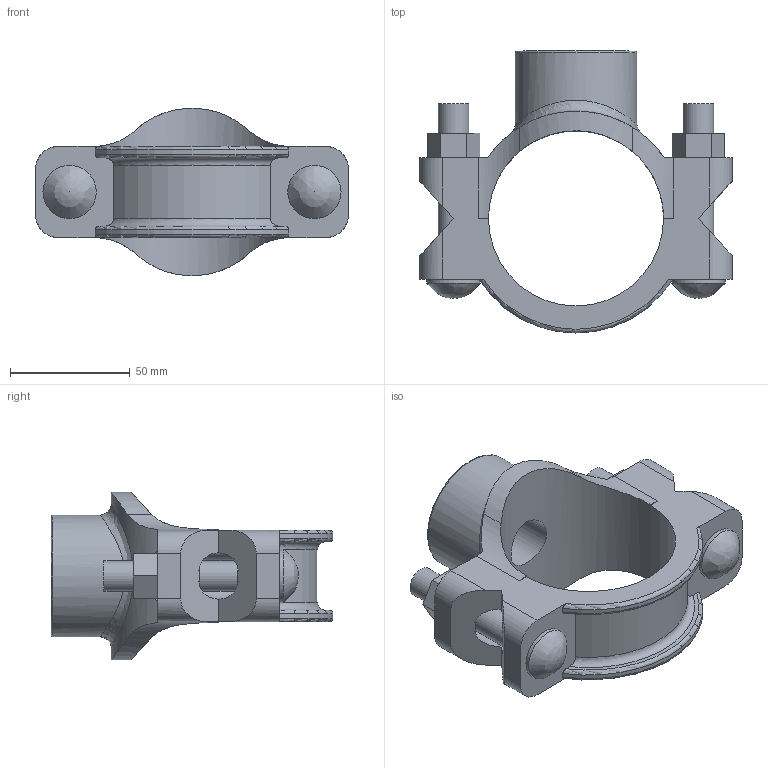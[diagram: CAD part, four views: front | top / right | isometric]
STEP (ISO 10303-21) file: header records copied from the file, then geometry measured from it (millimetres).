
FILE_DESCRIPTION(/* description */ ('VIC SS MECHANICAL T BRANCH OUTLET STYLE 422 (FPT)','CAx-IF Rec.Pracs.---Representation and Presentation of Product Manufacturing Information (PMI)---4.0---2014-10-13'),/* implementation_level */ '2;1');
FILE_NAME(/* name */ 'C:\Files for Export\422\STEP\Victaulic_SS-OGS_Mech-Tee Out_Style 422 (FPT)\Victaulic_SS-OGS_Mech-Tee Out_Style 422 (FPT)_02.5x0.75 (65x20).stp',/* time_stamp */ '2023-03-28T14:28:18+02:00',/* author */ ('jheald'),/* organization */ ('Victaulic'),/* preprocessor_version */ 'ST-DEVELOPER v18.1',/* originating_system */ 'Autodesk Inventor 2020',/* authorisation */ '');
FILE_SCHEMA (('AP242_MANAGED_MODEL_BASED_3D_ENGINEERING_MIM_LF { 1 0 10303 442 1 1 4 }'));
Length unit declared in the file: inch
Products named in the file (1): 422-02.5x0.75
Bounding box: 130.56 x 117.6 x 69.81 mm (x, y, z)
Volume: 201646.4 mm3; surface area: 53820.2 mm2
Topology: 1 solids, 1 shells, 92 faces, 280 edges, 186 vertices
Faces by surface type: plane 48, cylinder 34, torus 7, bspline 3
Full cylindrical faces by diameter (mm): 12.7 x4, 20.93 x1, 22.225 x2, 26.67 x1, 50.8 x1, 73.025 x1
Entity records: 3890 total; most frequent: CARTESIAN_POINT 1122, ORIENTED_EDGE 556, DIRECTION 552, EDGE_CURVE 278, AXIS2_PLACEMENT_3D 200, VERTEX_POINT 186, LINE 152, VECTOR 152
